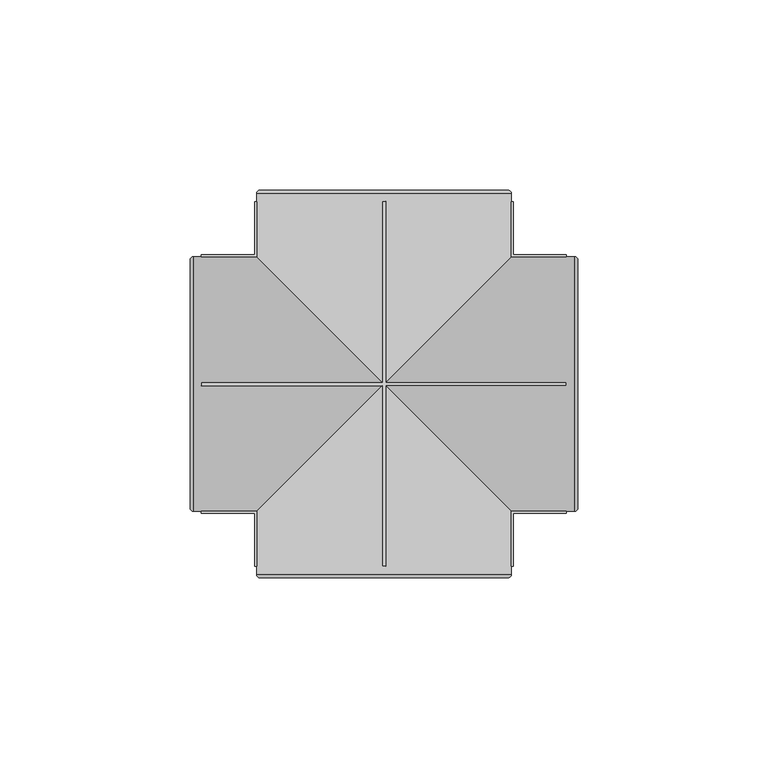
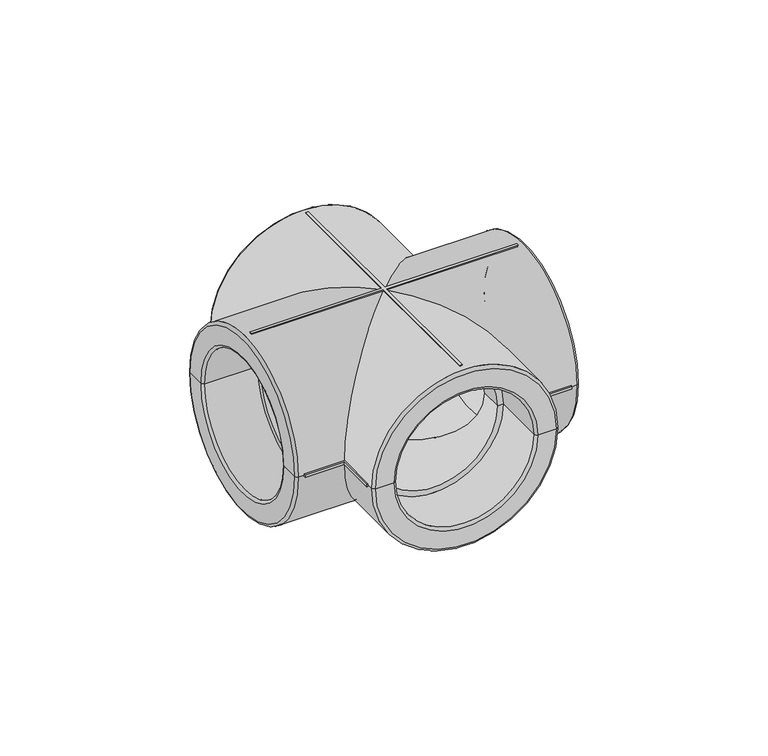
"""IFC4 building model written with IfcOpenShell, lengths in millimetres: pipe fitting geometry, EGB_VASEN_ PPR_Cruz WXR400 : EGB_VASEN_ PPR_Cruz WXR400."""

from ifc_helpers import new_model, si_unit, point, frame, origin, place, context, project, spatial, polyline, circle_curve, ellipse_curve, trimmed, source, transform, mapped, element, save
from ifc_brep_helpers import plane_surface, cylinder_surface, revolved_surface, advanced_brep


def pipe_fitting_6c1e590d(model_context):
    return source(origin(), model_context, "Body", "AdvancedBrep", [
        advanced_brep(
        [(-34.0, -48.0, 0.5), (-34.0, -48.0, -0.5), (-33.4962684, -48.0, -0.5), (-33.5, -48.0, 0.0), (-33.4962684, -48.0, 0.5), (34.0, -48.0, -0.5), (34.0, -48.0, 0.5), (33.4962684, -48.0, 0.5), (33.5, -48.0, 0.0), (33.4962684, -48.0, -0.5), (34.0, 48.0, 0.5), (34.0, 48.0, -0.5), (33.4962684, 48.0, -0.5), (33.5, 48.0, 0.0), (33.4962684, 48.0, 0.5), (-34.0, 48.0, -0.5), (-34.0, 48.0, 0.5), (-33.4962684, 48.0, 0.5), (-33.5, 48.0, 0.0), (-33.4962684, 48.0, -0.5), (34.0, -34.0, -0.5), (34.0, -34.0, 0.5), (34.0, 34.0, 0.5), (34.0, 34.0, -0.5), (33.4962684, -33.4962684, -0.5), (48.0, -33.4962684, -0.5), (48.0, -34.0, -0.5), (48.0, 34.0, -0.5), (48.0, 33.4962684, -0.5), (33.4962684, 33.4962684, -0.5), (-34.0, -34.0, -0.5), (-48.0, -34.0, -0.5), (-48.0, -33.4962684, -0.5), (-33.4962684, -33.4962684, -0.5), (-34.0, 34.0, -0.5), (-33.4962684, 33.4962684, -0.5), (-48.0, 33.4962684, -0.5), (-48.0, 34.0, -0.5), (-34.0, -34.0, 0.5), (-34.0, 34.0, 0.5), (48.0, -34.0, 0.5), (48.0, -33.4962684, 0.5), (33.4962684, -33.4962684, 0.5), (33.4962684, 33.4962684, 0.5), (48.0, 33.4962684, 0.5), (48.0, 34.0, 0.5), (-33.4962684, -33.4962684, 0.5), (-48.0, -33.4962684, 0.5), (-48.0, -34.0, 0.5), (-48.0, 34.0, 0.5), (-48.0, 33.4962684, 0.5), (-33.4962684, 33.4962684, 0.5), (48.0, -33.5, 0.0), (48.0, 33.5, 0.0), (-48.0, 33.5, 0.0), (-48.0, -33.5, 0.0), (-32.4999999, 51.0, 0.0), (-26.0, 51.0, 0.0), (26.0, 51.0, 0.0), (32.5, 51.0, 0.0), (33.5, -50.0000008, 0.0), (-33.5, -50.0, 0.0), (-0.5, -0.5, -33.4962684), (-0.5, -48.0, -33.4962684), (0.5, -48.0, -33.4962684), (0.5, -0.5, -33.4962684), (-33.5, 50.0, 0.0), (33.5, 50.0, 0.0), (0.5, 0.5, -33.4962684), (0.5, 48.0, -33.4962684), (-0.5, 48.0, -33.4962684), (-0.5, 0.5, -33.4962684), (0.5, -0.5, 33.4962684), (0.5, -48.0, 33.4962684), (-0.5, -48.0, 33.4962684), (-0.5, -0.5, 33.4962684), (-0.5, 0.5, 33.4962684), (-0.5, 48.0, 33.4962684), (0.5, 48.0, 33.4962684), (0.5, 0.5, 33.4962684), (32.5, -51.0, 0.0), (26.0, -51.0, 0.0), (-26.0, -51.0, 0.0), (-32.5, -51.0, 0.0), (50.0, 33.5, 0.0), (50.0, -33.5, 0.0), (48.0, -0.5, -33.4962684), (48.0, 0.5, -33.4962684), (-48.0, 0.5, -33.4962684), (-48.0, -0.5, -33.4962684), (-50.0000009, -33.5, 0.0), (-50.0, 33.5, 0.0), (48.0, 0.5, 33.4962684), (48.0, -0.5, 33.4962684), (-48.0, -0.5, 33.4962684), (-48.0, 0.5, 33.4962684), (-51.0, -32.5, 0.0), (-51.0, -26.0, 0.0), (-51.0, 26.0, 0.0), (-51.0, 32.5, 0.0), (51.0, 32.4999999, 0.0), (51.0, 26.0, 0.0), (51.0, -26.0, 0.0), (51.0, -32.5, 0.0), (48.0, 0.5, 34.0), (48.0, -0.5, 34.0), (48.0, -0.5, -34.0), (48.0, 0.5, -34.0), (-48.0, 0.5, -34.0), (-48.0, -0.5, -34.0), (-48.0, -0.5, 34.0), (-48.0, 0.5, 34.0), (0.5, 0.5, 34.0), (0.5, 48.0, 34.0), (-0.5, 48.0, 34.0), (-0.5, 0.5, 34.0), (-0.5, -0.5, 34.0), (-0.5, -48.0, 34.0), (0.5, -48.0, 34.0), (0.5, -0.5, 34.0), (0.5, -0.5, -34.0), (-0.5, -0.5, -34.0), (0.5, -48.0, -34.0), (-0.5, -48.0, -34.0), (-0.5, 0.5, -34.0), (-0.5, 48.0, -34.0), (0.5, 48.0, -34.0), (0.5, 0.5, -34.0), (25.0, -31.0, 0.0), (23.0, -31.0, 0.0), (-23.0, -31.0, 0.0), (-25.0, -31.0, 0.0), (-25.0, -50.0, 0.0), (25.0, -50.0, 0.0), (25.0, 50.0, 0.0), (-25.0, 50.0, 0.0), (-25.0, 31.0, 0.0), (25.0, 31.0, 0.0), (-23.0, 31.0, 0.0), (23.0, 31.0, 0.0), (23.0, -23.0, 0.0), (0.0, 0.0, -23.0), (-23.0, -23.0, 0.0), (-23.0, 23.0, 0.0), (23.0, 23.0, 0.0), (0.0, 0.0, 23.0), (50.0, -25.0, 0.0), (50.0, 25.0, 0.0), (31.0, 25.0, 0.0), (31.0, -25.0, 0.0), (31.0, 23.0, 0.0), (31.0, -23.0, 0.0), (-31.0, 23.0, 0.0), (-31.0, -23.0, 0.0), (-31.0, 25.0, 0.0), (-31.0, -25.0, 0.0), (-50.0, 25.0, 0.0), (-50.0, -25.0, 0.0)],
        [
            (0, 1),
            (1, 2),
            (2, 3, circle_curve(frame((0.0, -48.0, 0.0), z_axis=(0.0, 1.0, 0.0), x_axis=(-1.0, 0.0, 0.0)), 33.5)),
            (3, 4, circle_curve(frame((0.0, -48.0, 0.0), z_axis=(0.0, 1.0, 0.0), x_axis=(-1.0, 0.0, 0.0)), 33.5)),
            (4, 0),
            (5, 6),
            (6, 7),
            (7, 8, circle_curve(frame((0.0, -48.0, 0.0), z_axis=(0.0, 1.0, 0.0), x_axis=(-1.0, 0.0, 0.0)), 33.5)),
            (8, 9, circle_curve(frame((0.0, -48.0, 0.0), z_axis=(0.0, 1.0, 0.0), x_axis=(-1.0, 0.0, 0.0)), 33.5)),
            (9, 5),
            (10, 11),
            (11, 12),
            (12, 13, circle_curve(frame((0.0, 48.0, 0.0), z_axis=(0.0, -1.0, 0.0), x_axis=(-1.0, 0.0, 0.0)), 33.5)),
            (13, 14, circle_curve(frame((0.0, 48.0, 0.0), z_axis=(0.0, -1.0, 0.0), x_axis=(-1.0, 0.0, 0.0)), 33.5)),
            (14, 10),
            (15, 16),
            (16, 17),
            (17, 18, circle_curve(frame((0.0, 48.0, 0.0), z_axis=(0.0, -1.0, 0.0), x_axis=(-1.0, 0.0, 0.0)), 33.5)),
            (18, 19, circle_curve(frame((0.0, 48.0, 0.0), z_axis=(0.0, -1.0, 0.0), x_axis=(-1.0, 0.0, 0.0)), 33.5)),
            (19, 15),
            (5, 20),
            (20, 21),
            (21, 6),
            (10, 22),
            (22, 23),
            (23, 11),
            (9, 24),
            (24, 25),
            (25, 26),
            (26, 20),
            (23, 27),
            (27, 28),
            (28, 29),
            (29, 12),
            (1, 30),
            (30, 31),
            (31, 32),
            (32, 33),
            (33, 2),
            (34, 15),
            (19, 35),
            (35, 36),
            (36, 37),
            (37, 34),
            (0, 38),
            (38, 30),
            (34, 39),
            (39, 16),
            (21, 40),
            (40, 41),
            (41, 42),
            (42, 7),
            (14, 43),
            (43, 44),
            (44, 45),
            (45, 22),
            (4, 46),
            (46, 47),
            (47, 48),
            (48, 38),
            (39, 49),
            (49, 50),
            (50, 51),
            (51, 17),
            (40, 26),
            (25, 52, circle_curve(frame((48.0, 0.0, 0.0), z_axis=(-1.0, 0.0, 0.0), x_axis=(0.0, 1.0, 0.0)), 33.5)),
            (52, 41, circle_curve(frame((48.0, 0.0, 0.0), z_axis=(-1.0, 0.0, 0.0), x_axis=(0.0, 1.0, 0.0)), 33.5)),
            (27, 45),
            (44, 53, circle_curve(frame((48.0, 0.0, 0.0), z_axis=(-1.0, 0.0, 0.0), x_axis=(0.0, 1.0, 0.0)), 33.5)),
            (53, 28, circle_curve(frame((48.0, 0.0, 0.0), z_axis=(-1.0, 0.0, 0.0), x_axis=(0.0, 1.0, 0.0)), 33.5)),
            (49, 37),
            (36, 54, circle_curve(frame((-48.0, 0.0, 0.0), z_axis=(1.0, 0.0, 0.0), x_axis=(0.0, 1.0, 0.0)), 33.5)),
            (54, 50, circle_curve(frame((-48.0, 0.0, 0.0), z_axis=(1.0, 0.0, 0.0), x_axis=(0.0, 1.0, 0.0)), 33.5)),
            (31, 48),
            (47, 55, circle_curve(frame((-48.0, 0.0, 0.0), z_axis=(1.0, 0.0, 0.0), x_axis=(0.0, 1.0, 0.0)), 33.5)),
            (55, 32, circle_curve(frame((-48.0, 0.0, 0.0), z_axis=(1.0, 0.0, 0.0), x_axis=(0.0, 1.0, 0.0)), 33.5)),
            (56, 57),
            (57, 58, circle_curve(frame((0.0, 51.0, 0.0), z_axis=(0.0, -1.0, 0.0), x_axis=(-1.0, 0.0, 0.0)), 26.0)),
            (58, 59),
            (59, 56, circle_curve(frame((0.0, 51.0, 0.0), z_axis=(0.0, 1.0, 0.0), x_axis=(-1.0, 0.0, 0.0)), 32.5)),
            (56, 59, circle_curve(frame((0.0, 51.0, 0.0), z_axis=(0.0, 1.0, 0.0), x_axis=(-1.0, 0.0, 0.0)), 32.5)),
            (58, 57, circle_curve(frame((0.0, 51.0, 0.0), z_axis=(0.0, -1.0, 0.0), x_axis=(-1.0, 0.0, 0.0)), 26.0)),
            (8, 60),
            (60, 61, circle_curve(frame((0.0, -50.0, 0.0), z_axis=(0.0, 1.0, 0.0), x_axis=(-1.0, 0.0, 0.0)), 33.5)),
            (61, 3),
            (33, 62, ellipse_curve(frame((0.0, 0.0, 0.0), z_axis=(0.7071067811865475, -0.7071067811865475, 0.0), x_axis=(-0.7071067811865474, -0.7071067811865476, 0.0)), 47.3761543, 33.5)),
            (62, 63),
            (63, 64, circle_curve(frame((0.0, -48.0, 0.0), z_axis=(0.0, -1.0, 0.0), x_axis=(-1.0, 0.0, 0.0)), 33.5)),
            (64, 65),
            (65, 24, ellipse_curve(frame((0.0, 0.0, 0.0), z_axis=(-0.7071067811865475, -0.7071067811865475, 0.0), x_axis=(0.7071067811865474, -0.7071067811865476, 0.0)), 47.3761543, 33.5)),
            (18, 66),
            (66, 67, circle_curve(frame((0.0, 50.0, 0.0), z_axis=(0.0, -1.0, 0.0), x_axis=(-1.0, 0.0, 0.0)), 33.5)),
            (67, 13),
            (29, 68, ellipse_curve(frame((0.0, 0.0, 0.0), z_axis=(-0.7071067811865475, 0.7071067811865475, 0.0), x_axis=(-0.7071067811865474, -0.7071067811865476, 0.0)), 47.3761543, 33.5)),
            (68, 69),
            (69, 70, circle_curve(frame((0.0, 48.0, 0.0), z_axis=(0.0, 1.0, 0.0), x_axis=(-1.0, 0.0, 0.0)), 33.5)),
            (70, 71),
            (71, 35, ellipse_curve(frame((0.0, 0.0, 0.0), z_axis=(0.7071067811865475, 0.7071067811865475, 0.0), x_axis=(0.7071067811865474, -0.7071067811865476, 0.0)), 47.3761543, 33.5)),
            (61, 60, circle_curve(frame((0.0, -50.0, 0.0), z_axis=(0.0, 1.0, 0.0), x_axis=(-1.0, 0.0, 0.0)), 33.5)),
            (42, 72, ellipse_curve(frame((0.0, 0.0, 0.0), z_axis=(-0.7071067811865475, -0.7071067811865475, 0.0), x_axis=(0.7071067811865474, -0.7071067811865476, 0.0)), 47.3761543, 33.5)),
            (72, 73),
            (73, 74, circle_curve(frame((0.0, -48.0, 0.0), z_axis=(0.0, -1.0, 0.0), x_axis=(-1.0, 0.0, 0.0)), 33.5)),
            (74, 75),
            (75, 46, ellipse_curve(frame((0.0, 0.0, 0.0), z_axis=(0.7071067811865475, -0.7071067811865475, 0.0), x_axis=(-0.7071067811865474, -0.7071067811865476, 0.0)), 47.3761543, 33.5)),
            (67, 66, circle_curve(frame((0.0, 50.0, 0.0), z_axis=(0.0, -1.0, 0.0), x_axis=(-1.0, 0.0, 0.0)), 33.5)),
            (51, 76, ellipse_curve(frame((0.0, 0.0, 0.0), z_axis=(0.7071067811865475, 0.7071067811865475, 0.0), x_axis=(0.7071067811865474, -0.7071067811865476, 0.0)), 47.3761543, 33.5)),
            (76, 77),
            (77, 78, circle_curve(frame((0.0, 48.0, 0.0), z_axis=(0.0, 1.0, 0.0), x_axis=(-1.0, 0.0, 0.0)), 33.5)),
            (78, 79),
            (79, 43, ellipse_curve(frame((0.0, 0.0, 0.0), z_axis=(-0.7071067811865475, 0.7071067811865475, 0.0), x_axis=(-0.7071067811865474, -0.7071067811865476, 0.0)), 47.3761543, 33.5)),
            (80, 81),
            (81, 82, circle_curve(frame((0.0, -51.0, 0.0), z_axis=(0.0, 1.0, 0.0), x_axis=(-1.0, 0.0, 0.0)), 26.0)),
            (82, 83),
            (83, 80, circle_curve(frame((0.0, -51.0, 0.0), z_axis=(0.0, -1.0, 0.0), x_axis=(-1.0, 0.0, 0.0)), 32.5)),
            (80, 83, circle_curve(frame((0.0, -51.0, 0.0), z_axis=(0.0, -1.0, 0.0), x_axis=(-1.0, 0.0, 0.0)), 32.5)),
            (82, 81, circle_curve(frame((0.0, -51.0, 0.0), z_axis=(0.0, 1.0, 0.0), x_axis=(-1.0, 0.0, 0.0)), 26.0)),
            (53, 84),
            (84, 85, circle_curve(frame((50.0, 0.0, 0.0), z_axis=(-1.0, 0.0, 0.0), x_axis=(0.0, 1.0, 0.0)), 33.5)),
            (85, 52),
            (65, 86),
            (86, 87, circle_curve(frame((48.0, 0.0, 0.0), z_axis=(1.0, 0.0, 0.0), x_axis=(0.0, 1.0, 0.0)), 33.5)),
            (87, 68),
            (71, 88),
            (88, 89, circle_curve(frame((-48.0, 0.0, 0.0), z_axis=(-1.0, 0.0, 0.0), x_axis=(0.0, 1.0, 0.0)), 33.5)),
            (89, 62),
            (55, 90),
            (90, 91, circle_curve(frame((-50.0, 0.0, 0.0), z_axis=(1.0, 0.0, 0.0), x_axis=(0.0, 1.0, 0.0)), 33.5)),
            (91, 54),
            (79, 92),
            (92, 93, circle_curve(frame((48.0, 0.0, 0.0), z_axis=(1.0, 0.0, 0.0), x_axis=(0.0, 1.0, 0.0)), 33.5)),
            (93, 72),
            (85, 84, circle_curve(frame((50.0, 0.0, 0.0), z_axis=(-1.0, 0.0, 0.0), x_axis=(0.0, 1.0, 0.0)), 33.5)),
            (91, 90, circle_curve(frame((-50.0, 0.0, 0.0), z_axis=(1.0, 0.0, 0.0), x_axis=(0.0, 1.0, 0.0)), 33.5)),
            (75, 94),
            (94, 95, circle_curve(frame((-48.0, 0.0, 0.0), z_axis=(-1.0, 0.0, 0.0), x_axis=(0.0, 1.0, 0.0)), 33.5)),
            (95, 76),
            (96, 97),
            (97, 98, circle_curve(frame((-51.0, 0.0, 0.0), z_axis=(1.0, 0.0, 0.0), x_axis=(0.0, 1.0, 0.0)), 26.0)),
            (98, 99),
            (99, 96, circle_curve(frame((-51.0, 0.0, 0.0), z_axis=(-1.0, 0.0, 0.0), x_axis=(0.0, 1.0, 0.0)), 32.5)),
            (96, 99, circle_curve(frame((-51.0, 0.0, 0.0), z_axis=(-1.0, 0.0, 0.0), x_axis=(0.0, 1.0, 0.0)), 32.5)),
            (98, 97, circle_curve(frame((-51.0, 0.0, 0.0), z_axis=(1.0, 0.0, 0.0), x_axis=(0.0, 1.0, 0.0)), 26.0)),
            (100, 101),
            (101, 102, circle_curve(frame((51.0, 0.0, 0.0), z_axis=(-1.0, 0.0, 0.0), x_axis=(0.0, 1.0, 0.0)), 26.0)),
            (102, 103),
            (103, 100, circle_curve(frame((51.0, 0.0, 0.0), z_axis=(1.0, 0.0, 0.0), x_axis=(0.0, 1.0, 0.0)), 32.5)),
            (100, 103, circle_curve(frame((51.0, 0.0, 0.0), z_axis=(1.0, 0.0, 0.0), x_axis=(0.0, 1.0, 0.0)), 32.5)),
            (102, 101, circle_curve(frame((51.0, 0.0, 0.0), z_axis=(-1.0, 0.0, 0.0), x_axis=(0.0, 1.0, 0.0)), 26.0)),
            (104, 105),
            (105, 93),
            (92, 104),
            (106, 107),
            (107, 87),
            (86, 106),
            (108, 109),
            (109, 89),
            (88, 108),
            (110, 111),
            (111, 95),
            (94, 110),
            (104, 112),
            (112, 113),
            (113, 114),
            (114, 115),
            (115, 111),
            (110, 116),
            (116, 117),
            (117, 118),
            (118, 119),
            (119, 105),
            (119, 72),
            (65, 120),
            (120, 106),
            (109, 121),
            (121, 62),
            (75, 116),
            (120, 122),
            (122, 123),
            (123, 121),
            (108, 124),
            (124, 125),
            (125, 126),
            (126, 127),
            (127, 107),
            (79, 112),
            (127, 68),
            (71, 124),
            (115, 76),
            (117, 74),
            (73, 118),
            (122, 64),
            (63, 123),
            (113, 78),
            (77, 114),
            (125, 70),
            (69, 126),
            (128, 129),
            (129, 130, circle_curve(frame((0.0, -31.0, 0.0), z_axis=(0.0, 1.0, 0.0), x_axis=(-1.0, 0.0, 0.0)), 23.0)),
            (130, 131),
            (131, 128, circle_curve(frame((0.0, -31.0, 0.0), z_axis=(0.0, -1.0, 0.0), x_axis=(-1.0, 0.0, 0.0)), 25.0)),
            (128, 131, circle_curve(frame((0.0, -31.0, 0.0), z_axis=(0.0, -1.0, 0.0), x_axis=(-1.0, 0.0, 0.0)), 25.0)),
            (130, 129, circle_curve(frame((0.0, -31.0, 0.0), z_axis=(0.0, 1.0, 0.0), x_axis=(-1.0, 0.0, 0.0)), 23.0)),
            (131, 132),
            (132, 133, circle_curve(frame((0.0, -50.0, 0.0), z_axis=(0.0, -1.0, 0.0), x_axis=(-1.0, 0.0, 0.0)), 25.0)),
            (133, 128),
            (133, 132, circle_curve(frame((0.0, -50.0, 0.0), z_axis=(0.0, -1.0, 0.0), x_axis=(-1.0, 0.0, 0.0)), 25.0)),
            (132, 82, circle_curve(frame((-26.0, -50.0, 0.0), z_axis=(0.0, 0.0, -1.0), x_axis=(1.0, 0.0, 0.0)), 1.0)),
            (81, 133, circle_curve(frame((26.0, -50.0, 0.0), z_axis=(0.0, 0.0, -1.0), x_axis=(-1.0, 0.0, 0.0)), 1.0)),
            (134, 58, circle_curve(frame((26.0, 50.0, 0.0), z_axis=(0.0, 0.0, -1.0), x_axis=(-1.0, 0.0, 0.0)), 1.0)),
            (57, 135, circle_curve(frame((-26.0, 50.0, 0.0), z_axis=(0.0, 0.0, -1.0), x_axis=(1.0, 0.0, 0.0)), 1.0)),
            (135, 134, circle_curve(frame((0.0, 50.0, 0.0), z_axis=(0.0, -1.0, 0.0), x_axis=(-1.0, 0.0, 0.0)), 25.0)),
            (134, 135, circle_curve(frame((0.0, 50.0, 0.0), z_axis=(0.0, -1.0, 0.0), x_axis=(-1.0, 0.0, 0.0)), 25.0)),
            (135, 136),
            (136, 137, circle_curve(frame((0.0, 31.0, 0.0), z_axis=(0.0, -1.0, 0.0), x_axis=(-1.0, 0.0, 0.0)), 25.0)),
            (137, 134),
            (137, 136, circle_curve(frame((0.0, 31.0, 0.0), z_axis=(0.0, -1.0, 0.0), x_axis=(-1.0, 0.0, 0.0)), 25.0)),
            (136, 138),
            (138, 139, circle_curve(frame((0.0, 31.0, 0.0), z_axis=(0.0, -1.0, 0.0), x_axis=(-1.0, 0.0, 0.0)), 23.0)),
            (139, 137),
            (139, 138, circle_curve(frame((0.0, 31.0, 0.0), z_axis=(0.0, -1.0, 0.0), x_axis=(-1.0, 0.0, 0.0)), 23.0)),
            (129, 140),
            (140, 141, ellipse_curve(frame((0.0, 0.0, 0.0), z_axis=(0.7071067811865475, 0.7071067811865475, 0.0), x_axis=(0.7071067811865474, -0.7071067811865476, 0.0)), 32.5269119, 23.0)),
            (141, 142, ellipse_curve(frame((0.0, 0.0, 0.0), z_axis=(-0.7071067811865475, 0.7071067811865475, 0.0), x_axis=(-0.7071067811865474, -0.7071067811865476, 0.0)), 32.5269119, 23.0)),
            (142, 130),
            (138, 143),
            (143, 141, ellipse_curve(frame((0.0, 0.0, 0.0), z_axis=(-0.7071067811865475, -0.7071067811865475, 0.0), x_axis=(0.7071067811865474, -0.7071067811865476, 0.0)), 32.5269119, 23.0)),
            (141, 144, ellipse_curve(frame((0.0, 0.0, 0.0), z_axis=(0.7071067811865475, -0.7071067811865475, 0.0), x_axis=(-0.7071067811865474, -0.7071067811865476, 0.0)), 32.5269119, 23.0)),
            (144, 139),
            (142, 145, ellipse_curve(frame((0.0, 0.0, 0.0), z_axis=(-0.7071067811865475, 0.7071067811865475, 0.0), x_axis=(-0.7071067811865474, -0.7071067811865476, 0.0)), 32.5269119, 23.0)),
            (145, 140, ellipse_curve(frame((0.0, 0.0, 0.0), z_axis=(0.7071067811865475, 0.7071067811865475, 0.0), x_axis=(0.7071067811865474, -0.7071067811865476, 0.0)), 32.5269119, 23.0)),
            (144, 145, ellipse_curve(frame((0.0, 0.0, 0.0), z_axis=(0.7071067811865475, -0.7071067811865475, 0.0), x_axis=(-0.7071067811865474, -0.7071067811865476, 0.0)), 32.5269119, 23.0)),
            (145, 143, ellipse_curve(frame((0.0, 0.0, 0.0), z_axis=(-0.7071067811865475, -0.7071067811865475, 0.0), x_axis=(0.7071067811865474, -0.7071067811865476, 0.0)), 32.5269119, 23.0)),
            (59, 67, circle_curve(frame((32.5, 50.0, 0.0), z_axis=(0.0, 0.0, -1.0), x_axis=(-1.0, 0.0, 0.0)), 1.0)),
            (66, 56, circle_curve(frame((-32.5, 50.0, 0.0), z_axis=(0.0, 0.0, -1.0), x_axis=(1.0, 0.0, 0.0)), 1.0)),
            (60, 80, circle_curve(frame((32.5, -50.0, 0.0), z_axis=(0.0, 0.0, -1.0), x_axis=(-1.0, 0.0, 0.0)), 1.0)),
            (83, 61, circle_curve(frame((-32.5, -50.0, 0.0), z_axis=(0.0, 0.0, -1.0), x_axis=(1.0, 0.0, 0.0)), 1.0)),
            (103, 85, circle_curve(frame((50.0, -32.5, 0.0), z_axis=(0.0, 0.0, -1.0), x_axis=(1.0, 0.0, 0.0)), 1.0)),
            (84, 100, circle_curve(frame((50.0, 32.5, 0.0), z_axis=(0.0, 0.0, -1.0), x_axis=(1.0, 0.0, 0.0)), 1.0)),
            (146, 102, circle_curve(frame((50.0, -26.0, 0.0), z_axis=(0.0, 0.0, -1.0), x_axis=(1.0, 0.0, 0.0)), 1.0)),
            (101, 147, circle_curve(frame((50.0, 26.0, 0.0), z_axis=(0.0, 0.0, -1.0), x_axis=(1.0, 0.0, 0.0)), 1.0)),
            (147, 146, circle_curve(frame((50.0, 0.0, 0.0), z_axis=(-1.0, 0.0, 0.0), x_axis=(0.0, 1.0, 0.0)), 25.0)),
            (146, 147, circle_curve(frame((50.0, 0.0, 0.0), z_axis=(-1.0, 0.0, 0.0), x_axis=(0.0, 1.0, 0.0)), 25.0)),
            (147, 148),
            (148, 149, circle_curve(frame((31.0, 0.0, 0.0), z_axis=(-1.0, 0.0, 0.0), x_axis=(0.0, 1.0, 0.0)), 25.0)),
            (149, 146),
            (149, 148, circle_curve(frame((31.0, 0.0, 0.0), z_axis=(-1.0, 0.0, 0.0), x_axis=(0.0, 1.0, 0.0)), 25.0)),
            (148, 150),
            (150, 151, circle_curve(frame((31.0, 0.0, 0.0), z_axis=(-1.0, 0.0, 0.0), x_axis=(0.0, 1.0, 0.0)), 23.0)),
            (151, 149),
            (151, 150, circle_curve(frame((31.0, 0.0, 0.0), z_axis=(-1.0, 0.0, 0.0), x_axis=(0.0, 1.0, 0.0)), 23.0)),
            (150, 144),
            (140, 151),
            (152, 153, circle_curve(frame((-31.0, 0.0, 0.0), z_axis=(-1.0, 0.0, 0.0), x_axis=(0.0, 1.0, 0.0)), 23.0)),
            (153, 142),
            (143, 152),
            (153, 152, circle_curve(frame((-31.0, 0.0, 0.0), z_axis=(-1.0, 0.0, 0.0), x_axis=(0.0, 1.0, 0.0)), 23.0)),
            (152, 154),
            (154, 155, circle_curve(frame((-31.0, 0.0, 0.0), z_axis=(-1.0, 0.0, 0.0), x_axis=(0.0, 1.0, 0.0)), 25.0)),
            (155, 153),
            (155, 154, circle_curve(frame((-31.0, 0.0, 0.0), z_axis=(-1.0, 0.0, 0.0), x_axis=(0.0, 1.0, 0.0)), 25.0)),
            (154, 156),
            (156, 157, circle_curve(frame((-50.0, 0.0, 0.0), z_axis=(-1.0, 0.0, 0.0), x_axis=(0.0, 1.0, 0.0)), 25.0)),
            (157, 155),
            (157, 156, circle_curve(frame((-50.0, 0.0, 0.0), z_axis=(-1.0, 0.0, 0.0), x_axis=(0.0, 1.0, 0.0)), 25.0)),
            (156, 98, circle_curve(frame((-50.0, 26.0, 0.0), z_axis=(0.0, 0.0, -1.0), x_axis=(1.0, 0.0, 0.0)), 1.0)),
            (97, 157, circle_curve(frame((-50.0, -26.0, 0.0), z_axis=(0.0, 0.0, -1.0), x_axis=(1.0, 0.0, 0.0)), 1.0)),
            (90, 96, circle_curve(frame((-50.0, -32.5, 0.0), z_axis=(0.0, 0.0, -1.0), x_axis=(1.0, 0.0, 0.0)), 1.0)),
            (99, 91, circle_curve(frame((-50.0, 32.5, 0.0), z_axis=(0.0, 0.0, -1.0), x_axis=(1.0, 0.0, 0.0)), 1.0)),
        ],
        [
            plane_surface(frame((34.0, -48.0, 0.5), z_axis=(0.0, -1.0, 0.0), x_axis=(0.0, 0.0, 1.0))),
            plane_surface(frame((34.0, 48.0, 0.5), z_axis=(0.0, 1.0, 0.0), x_axis=(0.0, 0.0, -1.0))),
            plane_surface(frame((34.0, 48.0, 0.5), z_axis=(1.0, 0.0, 0.0), x_axis=(0.0, -1.0, 0.0))),
            plane_surface(frame((34.0, 48.0, -0.5), z_axis=(0.0, 0.0, -1.0), x_axis=(0.0, -1.0, 0.0))),
            plane_surface(frame((-34.0, 48.0, -0.5), z_axis=(-1.0, 0.0, 0.0), x_axis=(0.0, -1.0, 0.0))),
            plane_surface(frame((-34.0, 48.0, 0.5), z_axis=(0.0, 0.0, 1.0), x_axis=(0.0, -1.0, 0.0))),
            plane_surface(frame((48.0, -34.0, 0.5), z_axis=(1.0, 0.0, 0.0), x_axis=(0.0, -1.0, 0.0))),
            plane_surface(frame((-48.0, -34.0, 0.5), z_axis=(-1.0, 0.0, 0.0), x_axis=(0.0, 1.0, 0.0))),
            plane_surface(frame((48.0, -34.0, 0.5), z_axis=(0.0, -1.0, 0.0), x_axis=(-1.0, 0.0, 0.0))),
            plane_surface(frame((48.0, 34.0, -0.5), z_axis=(0.0, 1.0, 0.0), x_axis=(-1.0, 0.0, 0.0))),
            plane_surface(frame((0.0, 51.0, 0.0), z_axis=(0.0, 1.0, 0.0), x_axis=(-1.0, 0.0, 0.0))),
            cylinder_surface(frame((0.0, 2024.0, 0.0), z_axis=(0.0, -1.0, 0.0), x_axis=(-1.0, 0.0, 0.0)), 33.5),
            plane_surface(frame((0.0, -51.0, 0.0), z_axis=(0.0, -1.0, 0.0), x_axis=(-1.0, 0.0, 0.0))),
            cylinder_surface(frame((2024.0, 0.0, 0.0), z_axis=(-1.0, 0.0, 0.0), x_axis=(0.0, 1.0, 0.0)), 33.5),
            plane_surface(frame((-51.0, 0.0, 0.0), z_axis=(-1.0, 0.0, 0.0), x_axis=(0.0, 1.0, 0.0))),
            plane_surface(frame((51.0, 0.0, 0.0), z_axis=(1.0, 0.0, 0.0), x_axis=(0.0, 1.0, 0.0))),
            plane_surface(frame((48.0, -0.5, 34.0), z_axis=(1.0, 0.0, 0.0), x_axis=(0.0, -1.0, 0.0))),
            plane_surface(frame((-48.0, -0.5, 34.0), z_axis=(-1.0, 0.0, 0.0), x_axis=(0.0, 1.0, 0.0))),
            plane_surface(frame((48.0, 0.5, 34.0), z_axis=(0.0, 0.0, 1.0), x_axis=(-1.0, 0.0, 0.0))),
            plane_surface(frame((48.0, -0.5, 34.0), z_axis=(0.0, -1.0, 0.0), x_axis=(-1.0, 0.0, 0.0))),
            plane_surface(frame((48.0, -0.5, -34.0), z_axis=(0.0, 0.0, -1.0), x_axis=(-1.0, 0.0, 0.0))),
            plane_surface(frame((48.0, 0.5, -34.0), z_axis=(0.0, 1.0, 0.0), x_axis=(-1.0, 0.0, 0.0))),
            plane_surface(frame((0.5, -48.0, 34.0), z_axis=(0.0, -1.0, 0.0), x_axis=(0.0, 0.0, 1.0))),
            plane_surface(frame((0.5, 48.0, 34.0), z_axis=(0.0, 1.0, 0.0), x_axis=(0.0, 0.0, -1.0))),
            plane_surface(frame((0.5, 48.0, 34.0), z_axis=(1.0, 0.0, 0.0), x_axis=(0.0, -1.0, 0.0))),
            plane_surface(frame((-0.5, 48.0, -34.0), z_axis=(-1.0, 0.0, 0.0), x_axis=(0.0, -1.0, 0.0))),
            plane_surface(frame((0.0, -31.0, 0.0), z_axis=(0.0, -1.0, 0.0), x_axis=(-1.0, 0.0, 0.0))),
            revolved_surface(polyline([(-25.0, -50.0, 0.0), (-25.0, -31.0, 0.0)]), (0.0, 2024.0, 0.0), (0.0, -1.0, 0.0)),
            revolved_surface(trimmed(ellipse_curve(frame((-26.0, -50.0, 0.0), z_axis=(0.0, 0.0, 1.0), x_axis=(1.0, 0.0, 0.0)), 1.0, 1.0), [point((-26.0, -51.0, 0.0))], [point((-25.0, -50.0, 0.0))], True, "CARTESIAN"), (0.0, 2024.0, 0.0), (0.0, -1.0, 0.0)),
            revolved_surface(trimmed(ellipse_curve(frame((-26.0, 50.0, 0.0), z_axis=(0.0, 0.0, 1.0), x_axis=(1.0, 0.0, 0.0)), 1.0, 1.0), [point((-25.0, 50.0, 0.0))], [point((-26.0, 51.0, 0.0))], True, "CARTESIAN"), (0.0, 2024.0, 0.0), (0.0, -1.0, 0.0)),
            revolved_surface(polyline([(-25.0, 31.0, 0.0), (-25.0, 50.0, 0.0)]), (0.0, 2024.0, 0.0), (0.0, -1.0, 0.0)),
            plane_surface(frame((0.0, 31.0, 0.0), z_axis=(0.0, 1.0, 0.0), x_axis=(-1.0, 0.0, 0.0))),
            revolved_surface(polyline([(-23.0, -31.0, 0.0), (-23.0, 22.999999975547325, 0.0)]), (0.0, 2024.0, 0.0), (0.0, -1.0, 0.0)),
            revolved_surface(polyline([(-23.0, -22.999999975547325, 0.0), (-23.0, 31.0, 0.0)]), (0.0, 2024.0, 0.0), (0.0, -1.0, 0.0)),
            revolved_surface(trimmed(ellipse_curve(frame((-32.5, 50.0, 0.0), z_axis=(0.0, 0.0, 1.0), x_axis=(1.0, 0.0, 0.0)), 1.0, 1.0), [point((-32.5, 51.0, 0.0))], [point((-33.5, 50.0, 0.0))], True, "CARTESIAN"), (0.0, 2024.0, 0.0), (0.0, -1.0, 0.0)),
            revolved_surface(trimmed(ellipse_curve(frame((-32.5, -50.0, 0.0), z_axis=(0.0, 0.0, 1.0), x_axis=(1.0, 0.0, 0.0)), 1.0, 1.0), [point((-33.5, -50.0, 0.0))], [point((-32.5, -51.0, 0.0))], True, "CARTESIAN"), (0.0, 2024.0, 0.0), (0.0, -1.0, 0.0)),
            revolved_surface(trimmed(ellipse_curve(frame((50.0, 32.5, 0.0), z_axis=(0.0, 0.0, 1.0), x_axis=(1.0, 0.0, 0.0)), 1.0, 1.0), [point((51.0, 32.5, 0.0))], [point((50.0, 33.5, 0.0))], True, "CARTESIAN"), (2024.0, 0.0, 0.0), (-1.0, 0.0, 0.0)),
            revolved_surface(trimmed(ellipse_curve(frame((50.0, 26.0, 0.0), z_axis=(0.0, 0.0, 1.0), x_axis=(1.0, 0.0, 0.0)), 1.0, 1.0), [point((50.0, 25.0, 0.0))], [point((51.0, 26.0, 0.0))], True, "CARTESIAN"), (2024.0, 0.0, 0.0), (-1.0, 0.0, 0.0)),
            revolved_surface(polyline([(31.0, 25.0, 0.0), (50.0, 25.0, 0.0)]), (2024.0, 0.0, 0.0), (-1.0, 0.0, 0.0)),
            plane_surface(frame((31.0, 0.0, 0.0), z_axis=(1.0, 0.0, 0.0), x_axis=(0.0, 1.0, 0.0))),
            revolved_surface(polyline([(-22.999999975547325, 23.0, 0.0), (31.0, 23.0, 0.0)]), (2024.0, 0.0, 0.0), (-1.0, 0.0, 0.0)),
            revolved_surface(polyline([(-31.0, 23.0, 0.0), (22.999999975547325, 23.0, 0.0)]), (2024.0, 0.0, 0.0), (-1.0, 0.0, 0.0)),
            plane_surface(frame((-31.0, 0.0, 0.0), z_axis=(-1.0, 0.0, 0.0), x_axis=(0.0, 1.0, 0.0))),
            revolved_surface(polyline([(-50.0, 25.0, 0.0), (-31.0, 25.0, 0.0)]), (2024.0, 0.0, 0.0), (-1.0, 0.0, 0.0)),
            revolved_surface(trimmed(ellipse_curve(frame((-50.0, 26.0, 0.0), z_axis=(0.0, 0.0, 1.0), x_axis=(1.0, 0.0, 0.0)), 1.0, 1.0), [point((-51.0, 26.0, 0.0))], [point((-50.0, 25.0, 0.0))], True, "CARTESIAN"), (2024.0, 0.0, 0.0), (-1.0, 0.0, 0.0)),
            revolved_surface(trimmed(ellipse_curve(frame((-50.0, 32.5, 0.0), z_axis=(0.0, 0.0, 1.0), x_axis=(1.0, 0.0, 0.0)), 1.0, 1.0), [point((-50.0, 33.5, 0.0))], [point((-51.0, 32.5, 0.0))], True, "CARTESIAN"), (2024.0, 0.0, 0.0), (-1.0, 0.0, 0.0)),
        ],
        [
            (0, [[1, 2, 3, 4, 5]]),
            (0, [[6, 7, 8, 9, 10]]),
            (1, [[11, 12, 13, 14, 15]]),
            (1, [[16, 17, 18, 19, 20]]),
            (2, [[-6, 21, 22, 23]]),
            (2, [[-11, 24, 25, 26]]),
            (3, [[-21, -10, 27, 28, 29, 30]]),
            (3, [[-26, 31, 32, 33, 34, -12]]),
            (3, [[35, 36, 37, 38, 39, -2]]),
            (3, [[40, -20, 41, 42, 43, 44]]),
            (4, [[-1, 45, 46, -35]]),
            (4, [[-16, -40, 47, 48]]),
            (5, [[-23, 49, 50, 51, 52, -7]]),
            (5, [[-24, -15, 53, 54, 55, 56]]),
            (5, [[-45, -5, 57, 58, 59, 60]]),
            (5, [[-48, 61, 62, 63, 64, -17]]),
            (6, [[65, -29, 66, 67, -50]]),
            (6, [[68, -55, 69, 70, -32]]),
            (7, [[71, -43, 72, 73, -62]]),
            (7, [[74, -59, 75, 76, -37]]),
            (8, [[-65, -49, -22, -30]]),
            (8, [[-74, -36, -46, -60]]),
            (9, [[-68, -31, -25, -56]]),
            (9, [[-71, -61, -47, -44]]),
            (10, [[77, 78, 79, 80]]),
            (10, [[-77, 81, -79, 82]]),
            (11, [[-9, 83, 84, 85, -3, -39, 86, 87, 88, 89, 90, -27]]),
            (11, [[-19, 91, 92, 93, -13, -34, 94, 95, 96, 97, 98, -41]]),
            (11, [[-4, -85, 99, -83, -8, -52, 100, 101, 102, 103, 104, -57]]),
            (11, [[-14, -93, 105, -91, -18, -64, 106, 107, 108, 109, 110, -53]]),
            (12, [[111, 112, 113, 114]]),
            (12, [[-111, 115, -113, 116]]),
            (13, [[-33, -70, 117, 118, 119, -66, -28, -90, 120, 121, 122, -94]]),
            (13, [[-42, -98, 123, 124, 125, -86, -38, -76, 126, 127, 128, -72]]),
            (13, [[-54, -110, 129, 130, 131, -100, -51, -67, -119, 132, -117, -69]]),
            (13, [[-63, -73, -128, 133, -126, -75, -58, -104, 134, 135, 136, -106]]),
            (14, [[137, 138, 139, 140]]),
            (14, [[-137, 141, -139, 142]]),
            (15, [[143, 144, 145, 146]]),
            (15, [[-143, 147, -145, 148]]),
            (16, [[149, 150, -130, 151]]),
            (16, [[152, 153, -121, 154]]),
            (17, [[155, 156, -124, 157]]),
            (17, [[158, 159, -135, 160]]),
            (18, [[-149, 161, 162, 163, 164, 165, -158, 166, 167, 168, 169, 170]]),
            (19, [[-150, -170, 171, -131]]),
            (19, [[-154, -120, 172, 173]]),
            (19, [[-156, 174, 175, -125]]),
            (19, [[-160, -134, 176, -166]]),
            (20, [[-152, -173, 177, 178, 179, -174, -155, 180, 181, 182, 183, 184]]),
            (21, [[-151, -129, 185, -161]]),
            (21, [[-153, -184, 186, -122]]),
            (21, [[-157, -123, 187, -180]]),
            (21, [[-159, -165, 188, -136]]),
            (22, [[-168, 189, -102, 190]]),
            (22, [[-178, 191, -88, 192]]),
            (23, [[-163, 193, -108, 194]]),
            (23, [[-182, 195, -96, 196]]),
            (24, [[-162, -185, -109, -193]]),
            (24, [[-169, -190, -101, -171]]),
            (24, [[-177, -172, -89, -191]]),
            (24, [[-183, -196, -95, -186]]),
            (25, [[-164, -194, -107, -188]]),
            (25, [[-167, -176, -103, -189]]),
            (25, [[-179, -192, -87, -175]]),
            (25, [[-181, -187, -97, -195]]),
            (26, [[197, 198, 199, 200]]),
            (26, [[-197, 201, -199, 202]]),
            (27, [[-200, 203, 204, 205]]),
            (27, [[-201, -205, 206, -203]]),
            (28, [[-204, 207, -112, 208]]),
            (28, [[-206, -208, -116, -207]]),
            (29, [[209, -78, 210, 211]]),
            (29, [[-209, 212, -210, -82]]),
            (30, [[-211, 213, 214, 215]]),
            (30, [[-212, -215, 216, -213]]),
            (31, [[-214, 217, 218, 219]]),
            (31, [[-216, -219, 220, -217]]),
            (32, [[-198, 221, 222, 223, 224]]),
            (33, [[-218, 225, 226, 227, 228]]),
            (32, [[-202, -224, 229, 230, -221]]),
            (33, [[-220, -228, 231, 232, -225]]),
            (34, [[233, -92, 234, -80]]),
            (34, [[-233, -81, -234, -105]]),
            (35, [[235, -114, 236, -84]]),
            (35, [[-235, -99, -236, -115]]),
            (36, [[237, -118, 238, -146]]),
            (36, [[-237, -147, -238, -132]]),
            (37, [[239, -144, 240, 241]]),
            (37, [[-239, 242, -240, -148]]),
            (38, [[-241, 243, 244, 245]]),
            (38, [[-242, -245, 246, -243]]),
            (39, [[-244, 247, 248, 249]]),
            (39, [[-246, -249, 250, -247]]),
            (40, [[-248, 251, -227, -222, 252]]),
            (41, [[253, 254, -223, -226, 255]]),
            (40, [[-250, -252, -230, -231, -251]]),
            (41, [[256, -255, -232, -229, -254]]),
            (42, [[-253, 257, 258, 259]]),
            (42, [[-256, -259, 260, -257]]),
            (43, [[-258, 261, 262, 263]]),
            (43, [[-260, -263, 264, -261]]),
            (44, [[-262, 265, -138, 266]]),
            (44, [[-264, -266, -142, -265]]),
            (45, [[267, -140, 268, -127]]),
            (45, [[-267, -133, -268, -141]]),
        ],
    ),
    ])


if __name__ == "__main__":
    model = new_model("IFC4")
    model_context = context("Model", 3, world=origin())
    ifc_project = project(units=[si_unit("LENGTHUNIT", "METRE", prefix="MILLI")], contexts=[model_context])
    site = spatial("IfcSite", under=ifc_project)
    building = spatial("IfcBuilding", under=site)
    placement = place(None, origin())
    pipe_fitting_shape = pipe_fitting_6c1e590d(model_context)
    element("IfcPipeFitting", 1, ObjectType="EGB_VASEN_ PPR_Cruz WXR400 : EGB_VASEN_ PPR_Cruz WXR400", at=placement, inside=building, context=model_context, shape_type="MappedRepresentation", body=[
        mapped(pipe_fitting_shape, transform((0.0, 0.0, 0.0), x_axis=(1.0, 0.0, 0.0), y_axis=(0.0, 1.0, 0.0), z_axis=(0.0, 0.0, 1.0))),
    ])
    save(model, "model.ifc")
